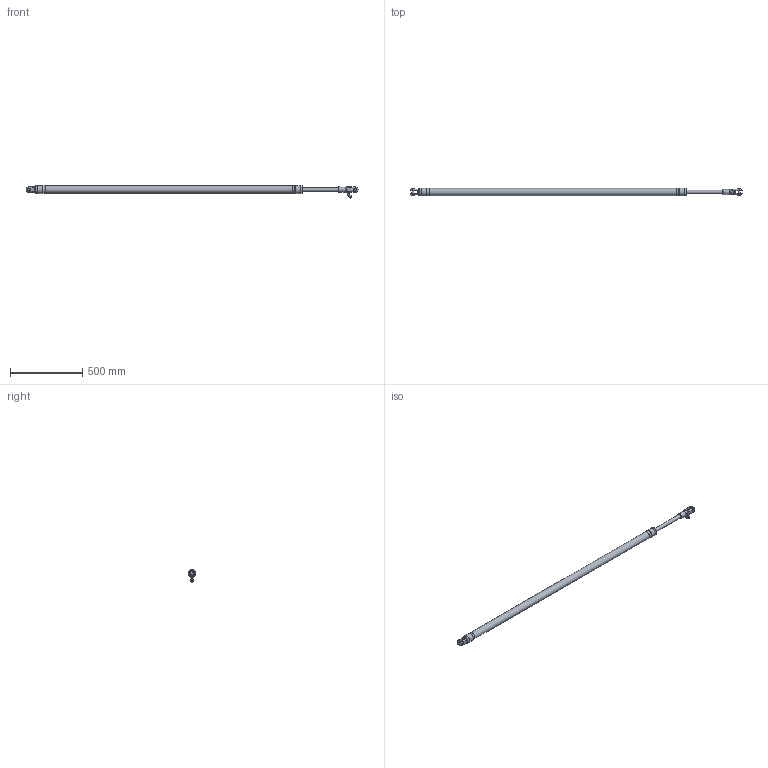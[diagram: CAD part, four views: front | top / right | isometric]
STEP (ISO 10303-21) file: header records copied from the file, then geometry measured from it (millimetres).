
FILE_DESCRIPTION(/* description */ (''),/* implementation_level */ '2;1');
FILE_NAME(/* name */ 'Q:\AA BRAND HYDRAULICS\HYDRAULICS FAMILY DIRECTORY\HYDRAULICS\CYLINDERS\VANGS\ALUMINIUM SINGLE ACTING - STAINLESS ON REQUEST (-0010 To -0150)\VSA-0012-S250-NP-71-L2000\VSA-0012-S250-NP-71-L2000 (Open).stp',/* time_stamp */ '2018-04-09T10:37:39+01:00',/* author */ ('Lorena'),/* organization */ (''),/* preprocessor_version */ 'ST-DEVELOPER v17',/* originating_system */ 'Autodesk Inventor 2018',/* authorisation */ '');
FILE_SCHEMA (('AUTOMOTIVE_DESIGN { 1 0 10303 214 3 1 1 }'));
Length unit declared in the file: millimetre
Products named in the file (1): VSA-0012-S250-NP-71-L2000 (Open)
Bounding box: 2293.15 x 53.8 x 86.79 mm (x, y, z)
Volume: 4082253.5 mm3; surface area: 354828.4 mm2
Topology: 2 solids, 4 shells, 1730 faces, 4687 edges, 3106 vertices
Faces by surface type: plane 975, bspline 573, cone 98, cylinder 76, torus 4, sphere 4
Full cylindrical faces by diameter (mm): 2.5 x1, 3.5 x1, 4.4 x1, 5 x4, 7.728 x1, 8.728 x1, 8.8 x4, 9.728 x2, 11.11 x1, 11.8 x2, 12 x3, 12.5 x1, 13 x1, 15.1 x3, 15.88 x2, 17 x1, 19.85 x2, 25 x1, 29 x1, 35 x1, 50.8 x1, 51.8 x1, 53.8 x3
Entity records: 62749 total; most frequent: CARTESIAN_POINT 21383, ORIENTED_EDGE 9362, DIRECTION 6099, EDGE_CURVE 4681, VERTEX_POINT 3109, LINE 2933, VECTOR 2933, EDGE_LOOP 1892
